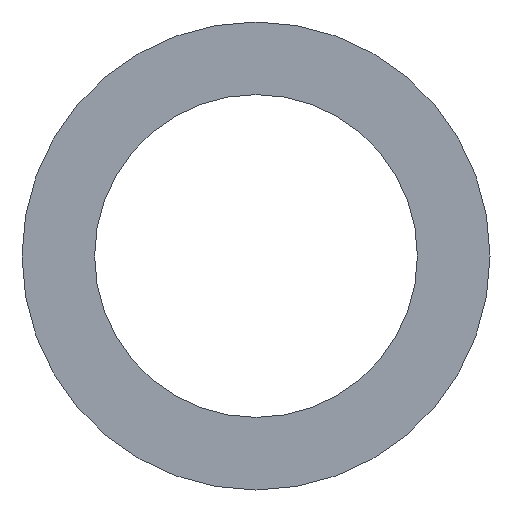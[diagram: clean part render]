
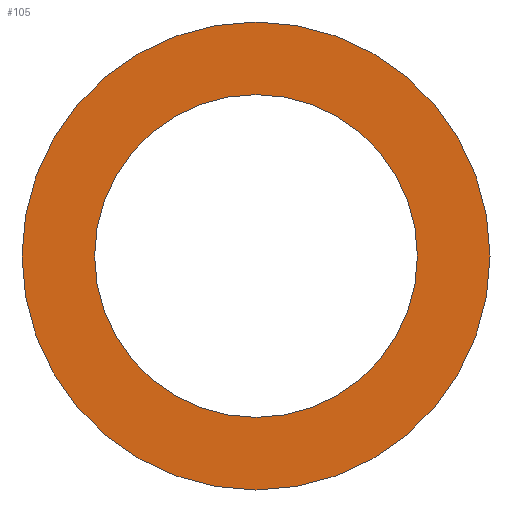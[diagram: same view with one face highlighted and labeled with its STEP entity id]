
A CAD part, front view. The second image highlights one B-rep face of the part: STEP entity #105.
In plain terms, the highlighted planar face has unit normal (0, -1, 0).
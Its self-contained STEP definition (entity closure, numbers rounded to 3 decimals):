
#21 = EDGE_CURVE('',#22,#22,#24,.T.);
#22 = VERTEX_POINT('',#23);
#23 = CARTESIAN_POINT('',(349.,34.,0.));
#24 = SURFACE_CURVE('',#25,(#30,#42),.PCURVE_S1.);
#25 = CIRCLE('',#26,29.);
#26 = AXIS2_PLACEMENT_3D('',#27,#28,#29);
#27 = CARTESIAN_POINT('',(320.,34.,0.));
#28 = DIRECTION('',(0.,-1.,0.));
#29 = DIRECTION('',(1.,0.,0.));
#30 = PCURVE('',#31,#36);
#31 = CYLINDRICAL_SURFACE('',#32,29.);
#32 = AXIS2_PLACEMENT_3D('',#33,#34,#35);
#33 = CARTESIAN_POINT('',(320.,44.,0.));
#34 = DIRECTION('',(0.,-1.,0.));
#35 = DIRECTION('',(1.,0.,0.));
#36 = DEFINITIONAL_REPRESENTATION('',(#37),#41);
#37 = LINE('',#38,#39);
#38 = CARTESIAN_POINT('',(0.,10.));
#39 = VECTOR('',#40,1.);
#40 = DIRECTION('',(1.,0.));
#41 = ( GEOMETRIC_REPRESENTATION_CONTEXT(2) 
PARAMETRIC_REPRESENTATION_CONTEXT() REPRESENTATION_CONTEXT('2D SPACE',''
  ) );
#42 = PCURVE('',#43,#48);
#43 = PLANE('',#44);
#44 = AXIS2_PLACEMENT_3D('',#45,#46,#47);
#45 = CARTESIAN_POINT('',(320.,34.,0.));
#46 = DIRECTION('',(0.,-1.,0.));
#47 = DIRECTION('',(1.,0.,0.));
#48 = DEFINITIONAL_REPRESENTATION('',(#49),#53);
#49 = CIRCLE('',#50,29.);
#50 = AXIS2_PLACEMENT_2D('',#51,#52);
#51 = CARTESIAN_POINT('',(0.,0.));
#52 = DIRECTION('',(1.,0.));
#53 = ( GEOMETRIC_REPRESENTATION_CONTEXT(2) 
PARAMETRIC_REPRESENTATION_CONTEXT() REPRESENTATION_CONTEXT('2D SPACE',''
  ) );
#105 = ADVANCED_FACE('',(#106,#109),#43,.T.);
#106 = FACE_BOUND('',#107,.T.);
#107 = EDGE_LOOP('',(#108));
#108 = ORIENTED_EDGE('',*,*,#21,.T.);
#109 = FACE_BOUND('',#110,.T.);
#110 = EDGE_LOOP('',(#111));
#111 = ORIENTED_EDGE('',*,*,#112,.F.);
#112 = EDGE_CURVE('',#113,#113,#115,.T.);
#113 = VERTEX_POINT('',#114);
#114 = CARTESIAN_POINT('',(340.,34.,0.));
#115 = SURFACE_CURVE('',#116,(#121,#128),.PCURVE_S1.);
#116 = CIRCLE('',#117,20.);
#117 = AXIS2_PLACEMENT_3D('',#118,#119,#120);
#118 = CARTESIAN_POINT('',(320.,34.,0.));
#119 = DIRECTION('',(0.,-1.,0.));
#120 = DIRECTION('',(1.,0.,0.));
#121 = PCURVE('',#43,#122);
#122 = DEFINITIONAL_REPRESENTATION('',(#123),#127);
#123 = CIRCLE('',#124,20.);
#124 = AXIS2_PLACEMENT_2D('',#125,#126);
#125 = CARTESIAN_POINT('',(0.,0.));
#126 = DIRECTION('',(1.,0.));
#127 = ( GEOMETRIC_REPRESENTATION_CONTEXT(2) 
PARAMETRIC_REPRESENTATION_CONTEXT() REPRESENTATION_CONTEXT('2D SPACE',''
  ) );
#128 = PCURVE('',#129,#134);
#129 = CYLINDRICAL_SURFACE('',#130,20.);
#130 = AXIS2_PLACEMENT_3D('',#131,#132,#133);
#131 = CARTESIAN_POINT('',(320.,45.,0.));
#132 = DIRECTION('',(0.,-1.,0.));
#133 = DIRECTION('',(1.,0.,0.));
#134 = DEFINITIONAL_REPRESENTATION('',(#135),#139);
#135 = LINE('',#136,#137);
#136 = CARTESIAN_POINT('',(0.,11.));
#137 = VECTOR('',#138,1.);
#138 = DIRECTION('',(1.,0.));
#139 = ( GEOMETRIC_REPRESENTATION_CONTEXT(2) 
PARAMETRIC_REPRESENTATION_CONTEXT() REPRESENTATION_CONTEXT('2D SPACE',''
  ) );
